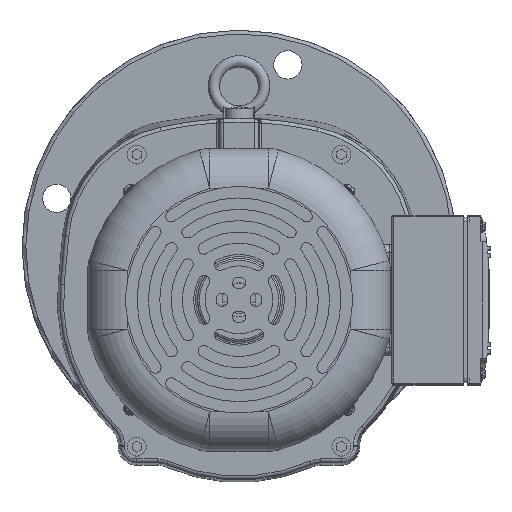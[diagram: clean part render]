
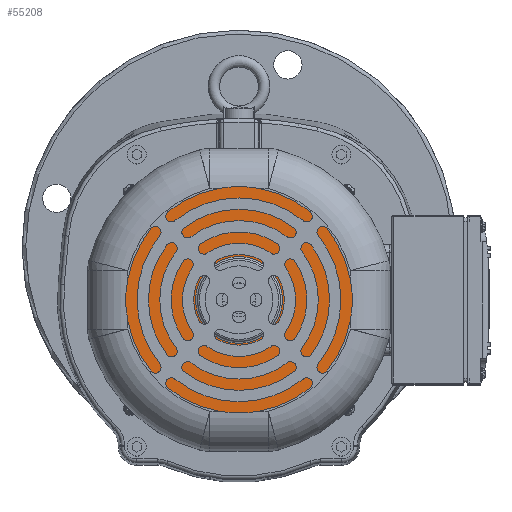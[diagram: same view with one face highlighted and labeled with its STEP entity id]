
A CAD part, top view. The second image highlights one B-rep face of the part: STEP entity #55208.
In plain terms, the highlighted planar face has unit normal (0, 0, 1).
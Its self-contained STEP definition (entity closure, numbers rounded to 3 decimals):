
#7211=FACE_BOUND('',#14541,.T.);
#8099=PLANE('',#60710);
#11168=FACE_OUTER_BOUND('',#14540,.T.);
#14540=EDGE_LOOP('',(#47009));
#14541=EDGE_LOOP('',(#47010));
#17762=CIRCLE('',#60693,23.);
#17775=CIRCLE('',#60711,63.);
#24340=VERTEX_POINT('',#126876);
#24350=VERTEX_POINT('',#126905);
#31987=EDGE_CURVE('',#24340,#24340,#17762,.T.);
#32001=EDGE_CURVE('',#24350,#24350,#17775,.T.);
#47009=ORIENTED_EDGE('',*,*,#32001,.F.);
#47010=ORIENTED_EDGE('',*,*,#31987,.F.);
#55208=ADVANCED_FACE('',(#11168,#7211),#8099,.T.);
#60693=AXIS2_PLACEMENT_3D('',#126877,#73975,#73976);
#60710=AXIS2_PLACEMENT_3D('',#126904,#74010,#74011);
#60711=AXIS2_PLACEMENT_3D('',#126906,#74012,#74013);
#73975=DIRECTION('center_axis',(0.,0.,
1.));
#73976=DIRECTION('ref_axis',(-0.707,-0.707,0.));
#74010=DIRECTION('center_axis',(0.,0.,
1.));
#74011=DIRECTION('ref_axis',(0.707,-0.707,0.));
#74012=DIRECTION('center_axis',(0.,0.,
-1.));
#74013=DIRECTION('ref_axis',(-0.707,-0.707,0.));
#126876=CARTESIAN_POINT('',(-27.703,-7.51,290.75));
#126877=CARTESIAN_POINT('Origin',(-11.439,-23.773,290.75));
#126904=CARTESIAN_POINT('Origin',(4.117,-8.217,290.75));
#126905=CARTESIAN_POINT('',(-55.987,20.774,290.75));
#126906=CARTESIAN_POINT('Origin',(-11.439,-23.773,290.75));
